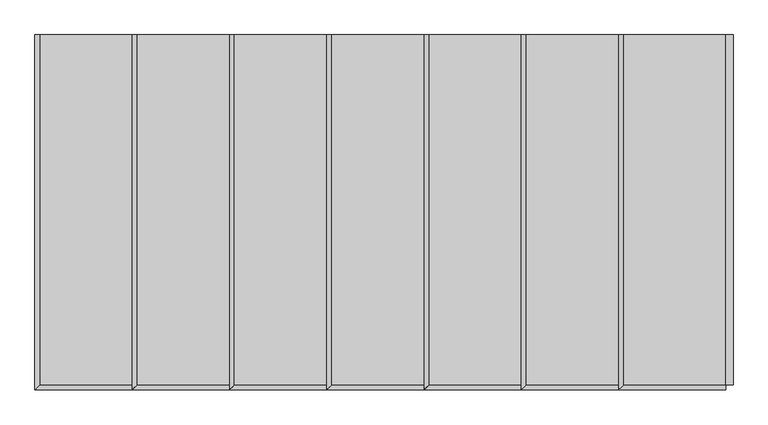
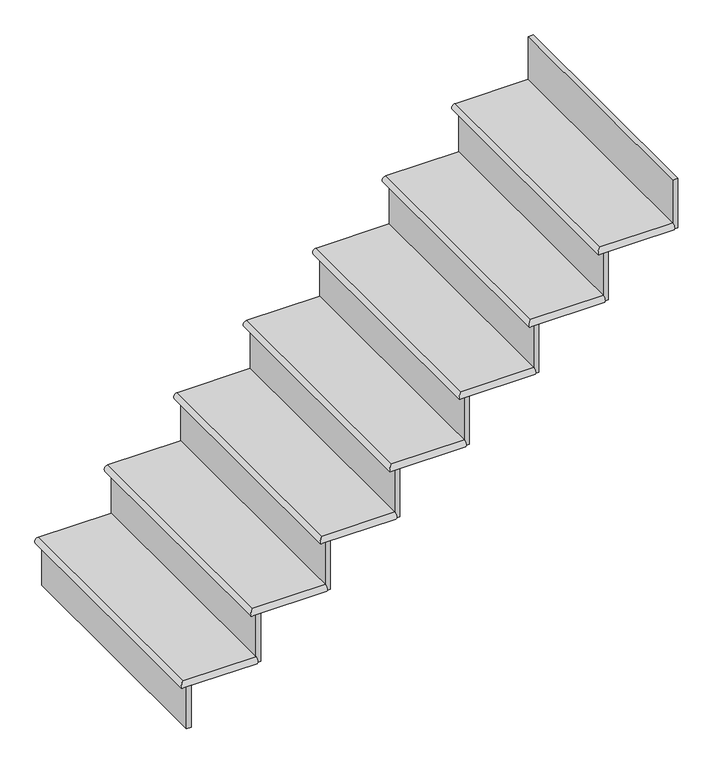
"""IFC4 building model written with IfcOpenShell, lengths in millimetres: stair flight geometry."""

import ifcopenshell
import ifcopenshell.guid

model = None  # the IFC model being written
_history = None  # IfcOwnerHistory: only IFC2X3 demands one
_inside = {}  # id of a spatial element -> (the spatial element, [elements in it])
_under = {}  # id of a project, library or spatial element -> (it, [spatial elements below it])
_declared = {}  # id of a project -> (the project, [libraries it declares])
_typed = {}  # id of a type object -> (the type object, [elements of that type])
_made_of = {}  # id of a material, layer set ... -> (it, [elements and type objects made of it])


def new_model(schema):
    """Start an empty IFC model of exactly this schema.

    Asked for "IFC4X3", IfcOpenShell would pick the latest addendum, in which some entities
    have other attributes; the version numbers below select the first issue.
    IFC2X3 requires an IfcOwnerHistory on every rooted entity: one is made here for all.
    """
    global model, _history
    if schema == "IFC4X3":
        model = ifcopenshell.file(schema_version=(4, 3, 0, 0))
    else:
        model = ifcopenshell.file(schema=schema)
    _inside.clear()
    _under.clear()
    _declared.clear()
    _typed.clear()
    _made_of.clear()
    _history = None
    if model.schema == "IFC2X3":
        org = make("IfcOrganization", Name="unknown")
        user = make(
            "IfcPersonAndOrganization",
            ThePerson=make("IfcPerson", FamilyName="unknown"),
            TheOrganization=org,
        )
        app = make(
            "IfcApplication",
            ApplicationDeveloper=org,
            Version="unknown",
            ApplicationFullName="unknown",
            ApplicationIdentifier="unknown",
        )
        _history = make(
            "IfcOwnerHistory",
            OwningUser=user,
            OwningApplication=app,
            ChangeAction="ADDED",
            CreationDate=0,
        )
    return model


def make(cls, **values):
    """One entity of the class cls with the attributes given. An attribute that is None is left unset."""
    return model.create_entity(
        cls, **{name: value for name, value in values.items() if value is not None}
    )


def rooted(cls, **values):
    """An entity with a GlobalId (a new one), such as an element, a storey or a relation."""
    return make(cls, GlobalId=ifcopenshell.guid.new(), OwnerHistory=_history, **values)


def si_unit(unit_type, name, prefix=None):
    """IfcSIUnit, for example si_unit("LENGTHUNIT", "METRE", prefix="MILLI")."""
    return make("IfcSIUnit", UnitType=unit_type, Prefix=prefix, Name=name)


def assignment(units):
    """IfcUnitAssignment: the units of a project."""
    return None if units is None else make("IfcUnitAssignment", Units=units)


def point(xyz):
    """IfcCartesianPoint."""
    return None if xyz is None else make("IfcCartesianPoint", Coordinates=xyz)


def direction(xyz):
    """IfcDirection."""
    return None if xyz is None else make("IfcDirection", DirectionRatios=xyz)


def frame(location, z_axis=None, x_axis=None):
    """IfcAxis2Placement3D, a coordinate frame: its origin and axes. An axis left out is left unset."""
    return make(
        "IfcAxis2Placement3D",
        Location=point(location),
        Axis=direction(z_axis),
        RefDirection=direction(x_axis),
    )


def origin():
    """The frame at (0, 0, 0) with its axes left unset."""
    return frame((0.0, 0.0, 0.0))


def place(relative_to, where):
    """IfcLocalPlacement: puts the frame where relative to a parent placement (None: the world)."""
    return make(
        "IfcLocalPlacement", PlacementRelTo=relative_to, RelativePlacement=where
    )


def context(
    kind, dimensions, precision=None, world=None, true_north=None, identifier=None
):
    """IfcGeometricRepresentationContext, for example the 3D "Model" context."""
    return make(
        "IfcGeometricRepresentationContext",
        ContextIdentifier=identifier,
        ContextType=kind,
        CoordinateSpaceDimension=dimensions,
        Precision=precision,
        WorldCoordinateSystem=world,
        TrueNorth=true_north,
    )


def project(units=None, contexts=None):
    """IfcProject with its units and contexts."""
    return rooted(
        "IfcProject",
        Name="project",
        RepresentationContexts=contexts,
        UnitsInContext=assignment(units),
    )


def spatial(cls, under=None, at=None, **own):
    """A site, building, storey or space (cls), placed at a placement, below another one or the project."""
    s = rooted(cls, ObjectPlacement=at, **own)
    if under is not None:
        _under.setdefault(under.id(), (under, []))[1].append(s)
    return s


def circle_curve(where, radius):
    """IfcCircle in the frame where."""
    return make("IfcCircle", Position=where, Radius=radius)


def ellipse_curve(where, semi_axis1, semi_axis2):
    """IfcEllipse in the frame where."""
    return make(
        "IfcEllipse", Position=where, SemiAxis1=semi_axis1, SemiAxis2=semi_axis2
    )


def faces_of(points, faces, orient=None, outer=None):
    """IfcFace entities. A face is a list of loops; a loop is a list of indices into points, from 0.

    orient and outer hold one flag for each loop. By default every Orientation is true, the
    first loop of a face is its IfcFaceOuterBound and the others are IfcFaceBound.
    """
    made = []
    for i, loops in enumerate(faces):
        bounds = []
        for j, loop in enumerate(loops):
            is_outer = j == 0 if outer is None else outer[i][j]
            bounds.append(
                make(
                    "IfcFaceOuterBound" if is_outer else "IfcFaceBound",
                    Bound=make("IfcPolyLoop", Polygon=[points[k] for k in loop]),
                    Orientation=True if orient is None else orient[i][j],
                )
            )
        made.append(make("IfcFace", Bounds=bounds))
    return made


def faceted_brep(points, faces, orient=None, outer=None, voids=None):
    """IfcFacetedBrep: a solid bounded by flat faces; with voids (closed shells), ...WithVoids."""
    shared = [point(p) for p in points]
    hull = make("IfcClosedShell", CfsFaces=faces_of(shared, faces, orient, outer))
    if voids is None:
        return make("IfcFacetedBrep", Outer=hull)
    return make(
        "IfcFacetedBrepWithVoids",
        Outer=hull,
        Voids=[
            make(cls, CfsFaces=faces_of(shared, fs, o, b)) for cls, fs, o, b in voids
        ],
    )


def shape(context_of_items, identifier, shape_type, items):
    """IfcShapeRepresentation: the items that make up one representation, for example the "Body"."""
    return make(
        "IfcShapeRepresentation",
        ContextOfItems=context_of_items,
        RepresentationIdentifier=identifier,
        RepresentationType=shape_type,
        Items=items,
    )


def source(mapping_origin, context_of_items, identifier, shape_type, items):
    """IfcRepresentationMap: a shape defined once, which mapped items show again and again."""
    return make(
        "IfcRepresentationMap",
        MappingOrigin=mapping_origin,
        MappedRepresentation=shape(context_of_items, identifier, shape_type, items),
    )


def transform(
    local_origin,
    x_axis=None,
    y_axis=None,
    z_axis=None,
    scale=None,
    scale2=None,
    scale3=None,
    uniform=True,
):
    """IfcCartesianTransformationOperator3D, or its non-uniform kind. x_axis, y_axis, z_axis: its Axis1, 2, 3."""
    if uniform:
        return make(
            "IfcCartesianTransformationOperator3D",
            Axis1=direction(x_axis),
            Axis2=direction(y_axis),
            LocalOrigin=point(local_origin),
            Scale=scale,
            Axis3=direction(z_axis),
        )
    return make(
        "IfcCartesianTransformationOperator3DnonUniform",
        Axis1=direction(x_axis),
        Axis2=direction(y_axis),
        LocalOrigin=point(local_origin),
        Scale=scale,
        Axis3=direction(z_axis),
        Scale2=scale2,
        Scale3=scale3,
    )


def mapped(mapping_source, mapping_target):
    """IfcMappedItem: shows the shape of a source again, moved by a transform."""
    return make(
        "IfcMappedItem", MappingSource=mapping_source, MappingTarget=mapping_target
    )


def made_of(thing, what):
    """Note that an element or type object is made of a material, layer set ...; save() writes the relation."""
    if what is not None:
        _made_of.setdefault(what.id(), (what, []))[1].append(thing)
    return thing


def element(
    cls,
    number,
    at=None,
    inside=None,
    cuts=None,
    type_object=None,
    material=None,
    context=None,
    identifier="Body",
    shape_type=None,
    held_by="IfcProductDefinitionShape",
    body=None,
    shapes=None,
    **own,
):
    """One element of the class cls, such as IfcWall. Its Tag is "e" and its number.

    at: its placement. inside: the storey or other place that contains it. cuts: it is an
    opening in that element (IfcRelVoidsElement). A single representation is given by context,
    identifier, shape_type and body (its items); several are given by shapes. held_by: the class
    of the entity that holds the representations. save() writes the other relations.
    """
    e = rooted(cls, Tag="e%d" % number, ObjectPlacement=at, **own)
    if body is not None:
        shapes = [shape(context, identifier, shape_type, body)]
    if shapes is not None:
        e.Representation = make(held_by, Representations=shapes)
    if inside is not None:
        _inside.setdefault(inside.id(), (inside, []))[1].append(e)
    if cuts is not None:
        rooted(
            "IfcRelVoidsElement", RelatingBuildingElement=cuts, RelatedOpeningElement=e
        )
    if type_object is not None:
        _typed.setdefault(type_object.id(), (type_object, []))[1].append(e)
    return made_of(e, material)


def aggregate(whole, parts):
    """IfcRelAggregates: a whole, such as a stair, and the parts it consists of."""
    return rooted("IfcRelAggregates", RelatingObject=whole, RelatedObjects=parts)


def save(model, path):
    """Write the relations noted so far, then the file.

    IfcRelAggregates (storeys below a building ...), IfcRelContainedInSpatialStructure (elements
    in a storey), IfcRelDefinesByType, IfcRelAssociatesMaterial and IfcRelDeclares: one each for
    every whole, place, type object, material and project.
    """
    for whole, parts in _under.values():
        aggregate(whole, parts)
    for where, things in _inside.values():
        rooted(
            "IfcRelContainedInSpatialStructure",
            RelatedElements=things,
            RelatingStructure=where,
        )
    for kind, things in _typed.values():
        rooted("IfcRelDefinesByType", RelatedObjects=things, RelatingType=kind)
    for what, things in _made_of.values():
        rooted("IfcRelAssociatesMaterial", RelatedObjects=things, RelatingMaterial=what)
    for by, libraries in _declared.values():
        rooted("IfcRelDeclares", RelatingContext=by, RelatedDefinitions=libraries)
    model.write(path)


def plane_surface(at):
    """IfcPlane: the flat surface through the origin of the frame at, square to its z axis."""
    return make("IfcPlane", Position=at)


def cylinder_surface(at, radius):
    """IfcCylindricalSurface: all points at the distance radius from the z axis of the frame at."""
    return make("IfcCylindricalSurface", Position=at, Radius=radius)


def advanced_brep(points, edges, surfaces, faces):
    """IfcAdvancedBrep: a solid bounded by faces that lie on surfaces and meet in shared edges.

    An edge is (start, end): straight between two places in points (the first is 0);
    or (start, end, curve); or (start, end, curve, False) where it runs against its curve.
    A face is (place in surfaces, loops), or (place, loops, False) where it looks against
    its surface's normal. A loop lists edges by number (the first is 1), with a minus sign
    where the edge is run from its end to its start. The first loop is the outer one.
    """
    corners = [point(p) for p in points]
    vertices = [make("IfcVertexPoint", VertexGeometry=c) for c in corners]
    made = []
    for start, end, *more in edges:
        made.append(
            make(
                "IfcEdgeCurve",
                EdgeStart=vertices[start],
                EdgeEnd=vertices[end],
                EdgeGeometry=more[0] if more else make("IfcPolyline", Points=[corners[start], corners[end]]),
                SameSense=more[1] if len(more) > 1 else True,
            )
        )
    hull = []
    for where, loops, *sense in faces:
        bounds = []
        for j, loop in enumerate(loops):
            ring = [make("IfcOrientedEdge", EdgeElement=made[abs(k) - 1], Orientation=k > 0) for k in loop]
            bounds.append(
                make(
                    "IfcFaceOuterBound" if j == 0 else "IfcFaceBound",
                    Bound=make("IfcEdgeLoop", EdgeList=ring),
                    Orientation=True,
                )
            )
        hull.append(make("IfcAdvancedFace", Bounds=bounds, FaceSurface=surfaces[where], SameSense=sense[0] if sense else True))
    return make("IfcAdvancedBrep", Outer=make("IfcClosedShell", CfsFaces=hull))


def stair_flight_34b82d96(model_context):
    return source(origin(), model_context, "Body", "SolidModel", [
        advanced_brep(
        [(-17769.3481446, 896.1568972, 165.1), (-17769.3481446, 896.1568972, 190.5), (-17769.3481446, 1810.5568972, 190.5), (-17769.3481446, 1810.5568972, 165.1), (-17502.6481446, 1810.5568972, 190.5), (-17502.6481446, 896.1568972, 190.5), (-17502.6481446, 1810.5568972, 165.1), (-17502.6481446, 896.1568972, 165.1)],
        [
            (0, 1, ellipse_curve(frame((-17769.3481446, 896.1568972, 177.8), z_axis=(-0.7071067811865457, 0.7071067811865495, 0.0), x_axis=(-0.7071067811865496, -0.7071067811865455, 0.0)), 17.9605122, 12.7)),
            (1, 2),
            (2, 3, circle_curve(frame((-17769.3481446, 1810.5568972, 177.8), z_axis=(0.0, -1.0, 0.0), x_axis=(1.0, 0.0, 0.0)), 12.7)),
            (3, 0),
            (4, 2),
            (1, 5),
            (5, 4),
            (3, 6),
            (6, 7),
            (7, 0),
            (4, 6),
            (5, 7, circle_curve(frame((-17502.6481446, 896.1568972, 177.8), z_axis=(1.0, 0.0, 0.0), x_axis=(0.0, 1.0, 0.0)), 12.7)),
        ],
        [
            cylinder_surface(frame((-17769.3481446, 896.1568972, 177.8), z_axis=(0.0, -1.0, 0.0), x_axis=(1.0, 0.0, 0.0)), 12.7),
            plane_surface(frame((-17782.0481446, 1810.5568972, 190.5), z_axis=(0.0, 0.0, 1.0), x_axis=(-1.0, 0.0, 0.0))),
            plane_surface(frame((-17782.0481446, 1810.5568972, 165.1), z_axis=(0.0, 0.0, -1.0), x_axis=(1.0, 0.0, 0.0))),
            plane_surface(frame((-17502.6481446, 1810.5568972, 190.5), z_axis=(0.0, 1.0, 0.0), x_axis=(0.0, 0.0, -1.0))),
            plane_surface(frame((-17502.6481446, 896.1568972, 190.5), z_axis=(1.0, 0.0, 0.0), x_axis=(0.0, 0.0, -1.0))),
            cylinder_surface(frame((-17502.6481446, 896.1568972, 177.8), z_axis=(1.0, 0.0, 0.0), x_axis=(0.0, 1.0, 0.0)), 12.7),
        ],
        [
            (0, [[1, 2, 3, 4]]),
            (1, [[5, -2, 6, 7]]),
            (2, [[8, 9, 10, -4]]),
            (3, [[-5, 11, -8, -3]]),
            (4, [[-7, 12, -9, -11]]),
            (5, [[-12, -6, -1, -10]]),
        ],
    ),
        faceted_brep([(-17756.6481446, 896.1568972, 165.1), (-17756.6481446, 896.1568972, 0.0), (-17737.5981446, 896.1568972, 0.0), (-17737.5981446, 896.1568972, 165.1), (-17756.6481446, 1810.5568972, 165.1), (-17737.5981446, 1810.5568972, 165.1), (-17737.5981446, 1810.5568972, 0.0), (-17756.6481446, 1810.5568972, 0.0)], [[[0, 1, 2, 3]], [[4, 5, 6, 7]], [[1, 0, 4, 7]], [[2, 1, 7, 6]], [[3, 2, 6, 5]], [[0, 3, 5, 4]]]),
        faceted_brep([(-17502.6481446, 896.1568972, 355.6), (-17502.6481446, 896.1568972, 165.1), (-17483.5981446, 896.1568972, 165.1), (-17483.5981446, 896.1568972, 355.6), (-17502.6481446, 1810.5568972, 355.6), (-17483.5981446, 1810.5568972, 355.6), (-17483.5981446, 1810.5568972, 165.1), (-17502.6481446, 1810.5568972, 165.1)], [[[0, 1, 2, 3]], [[4, 5, 6, 7]], [[1, 0, 4, 7]], [[2, 1, 7, 6]], [[3, 2, 6, 5]], [[0, 3, 5, 4]]]),
        advanced_brep(
        [(-17248.6481446, 1810.5568972, 381.0), (-17515.3481446, 1810.5568972, 381.0), (-17515.3481446, 896.1568972, 381.0), (-17248.6481446, 896.1568972, 381.0), (-17515.3481446, 1810.5568972, 355.6), (-17248.6481446, 1810.5568972, 355.6), (-17248.6481446, 896.1568972, 355.6), (-17515.3481446, 896.1568972, 355.6)],
        [
            (0, 1),
            (1, 2),
            (2, 3),
            (3, 0),
            (4, 5),
            (5, 6),
            (6, 7),
            (7, 4),
            (0, 5),
            (4, 1, circle_curve(frame((-17515.3481446, 1810.5568972, 368.3), z_axis=(0.0, 1.0, 0.0), x_axis=(1.0, 0.0, 0.0)), 12.7)),
            (3, 6, circle_curve(frame((-17248.6481446, 896.1568972, 368.3), z_axis=(1.0, 0.0, 0.0), x_axis=(0.0, 1.0, 0.0)), 12.7)),
            (7, 2, ellipse_curve(frame((-17515.3481446, 896.1568972, 368.3), z_axis=(-0.7071067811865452, 0.7071067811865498, 0.0), x_axis=(-0.7071067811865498, -0.7071067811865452, 0.0)), 17.9605122, 12.7)),
        ],
        [
            plane_surface(frame((-17782.0481446, 1810.5568972, 381.0), z_axis=(0.0, 0.0, 1.0), x_axis=(-1.0, 0.0, 0.0))),
            plane_surface(frame((-17782.0481446, 1810.5568972, 355.6), z_axis=(0.0, 0.0, -1.0), x_axis=(1.0, 0.0, 0.0))),
            plane_surface(frame((-17248.6481446, 1810.5568972, 381.0), z_axis=(0.0, 1.0, 0.0), x_axis=(0.0, 0.0, -1.0))),
            plane_surface(frame((-17248.6481446, 896.1568972, 381.0), z_axis=(1.0, 0.0, 0.0), x_axis=(0.0, 0.0, -1.0))),
            cylinder_surface(frame((-17515.3481446, 896.1568972, 368.3), z_axis=(0.0, -1.0, 0.0), x_axis=(1.0, 0.0, 0.0)), 12.7),
            cylinder_surface(frame((-17248.6481446, 896.1568972, 368.3), z_axis=(1.0, 0.0, 0.0), x_axis=(0.0, 1.0, 0.0)), 12.7),
        ],
        [
            (0, [[1, 2, 3, 4]]),
            (1, [[5, 6, 7, 8]]),
            (2, [[-1, 9, -5, 10]]),
            (3, [[-4, 11, -6, -9]]),
            (4, [[12, -2, -10, -8]]),
            (5, [[-11, -3, -12, -7]]),
        ],
    ),
        faceted_brep([(-17248.6481446, 896.1568972, 546.1), (-17248.6481446, 896.1568972, 355.6), (-17229.5981446, 896.1568972, 355.6), (-17229.5981446, 896.1568972, 546.1), (-17248.6481446, 1810.5568972, 546.1), (-17229.5981446, 1810.5568972, 546.1), (-17229.5981446, 1810.5568972, 355.6), (-17248.6481446, 1810.5568972, 355.6)], [[[0, 1, 2, 3]], [[4, 5, 6, 7]], [[1, 0, 4, 7]], [[2, 1, 7, 6]], [[3, 2, 6, 5]], [[0, 3, 5, 4]]]),
        advanced_brep(
        [(-16994.6481446, 1810.5568972, 571.5), (-17261.3481446, 1810.5568972, 571.5), (-17261.3481446, 896.1568972, 571.5), (-16994.6481446, 896.1568972, 571.5), (-17261.3481446, 1810.5568972, 546.1), (-16994.6481446, 1810.5568972, 546.1), (-16994.6481446, 896.1568972, 546.1), (-17261.3481446, 896.1568972, 546.1)],
        [
            (0, 1),
            (1, 2),
            (2, 3),
            (3, 0),
            (4, 5),
            (5, 6),
            (6, 7),
            (7, 4),
            (0, 5),
            (4, 1, circle_curve(frame((-17261.3481446, 1810.5568972, 558.8), z_axis=(0.0, 1.0, 0.0), x_axis=(1.0, 0.0, 0.0)), 12.7)),
            (3, 6, circle_curve(frame((-16994.6481446, 896.1568972, 558.8), z_axis=(1.0, 0.0, 0.0), x_axis=(0.0, 1.0, 0.0)), 12.7)),
            (7, 2, ellipse_curve(frame((-17261.3481446, 896.1568972, 558.8), z_axis=(-0.7071067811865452, 0.7071067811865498, 0.0), x_axis=(-0.7071067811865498, -0.7071067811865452, 0.0)), 17.9605122, 12.7)),
        ],
        [
            plane_surface(frame((-17528.0481446, 1810.5568972, 571.5), z_axis=(0.0, 0.0, 1.0), x_axis=(-1.0, 0.0, 0.0))),
            plane_surface(frame((-17528.0481446, 1810.5568972, 546.1), z_axis=(0.0, 0.0, -1.0), x_axis=(1.0, 0.0, 0.0))),
            plane_surface(frame((-16994.6481446, 1810.5568972, 571.5), z_axis=(0.0, 1.0, 0.0), x_axis=(0.0, 0.0, -1.0))),
            plane_surface(frame((-16994.6481446, 896.1568972, 571.5), z_axis=(1.0, 0.0, 0.0), x_axis=(0.0, 0.0, -1.0))),
            cylinder_surface(frame((-17261.3481446, 896.1568972, 558.8), z_axis=(0.0, -1.0, 0.0), x_axis=(1.0, 0.0, 0.0)), 12.7),
            cylinder_surface(frame((-16994.6481446, 896.1568972, 558.8), z_axis=(1.0, 0.0, 0.0), x_axis=(0.0, 1.0, 0.0)), 12.7),
        ],
        [
            (0, [[1, 2, 3, 4]]),
            (1, [[5, 6, 7, 8]]),
            (2, [[-1, 9, -5, 10]]),
            (3, [[-4, 11, -6, -9]]),
            (4, [[12, -2, -10, -8]]),
            (5, [[-11, -3, -12, -7]]),
        ],
    ),
        faceted_brep([(-16994.6481446, 896.1568972, 736.6), (-16994.6481446, 896.1568972, 546.1), (-16975.5981446, 896.1568972, 546.1), (-16975.5981446, 896.1568972, 736.6), (-16994.6481446, 1810.5568972, 736.6), (-16975.5981446, 1810.5568972, 736.6), (-16975.5981446, 1810.5568972, 546.1), (-16994.6481446, 1810.5568972, 546.1)], [[[0, 1, 2, 3]], [[4, 5, 6, 7]], [[1, 0, 4, 7]], [[2, 1, 7, 6]], [[3, 2, 6, 5]], [[0, 3, 5, 4]]]),
        advanced_brep(
        [(-16740.6481446, 1810.5568972, 762.0), (-17007.3481446, 1810.5568972, 762.0), (-17007.3481446, 896.1568972, 762.0), (-16740.6481446, 896.1568972, 762.0), (-17007.3481446, 1810.5568972, 736.6), (-16740.6481446, 1810.5568972, 736.6), (-16740.6481446, 896.1568972, 736.6), (-17007.3481446, 896.1568972, 736.6)],
        [
            (0, 1),
            (1, 2),
            (2, 3),
            (3, 0),
            (4, 5),
            (5, 6),
            (6, 7),
            (7, 4),
            (0, 5),
            (4, 1, circle_curve(frame((-17007.3481446, 1810.5568972, 749.3), z_axis=(0.0, 1.0, 0.0), x_axis=(1.0, 0.0, 0.0)), 12.7)),
            (3, 6, circle_curve(frame((-16740.6481446, 896.1568972, 749.3), z_axis=(1.0, 0.0, 0.0), x_axis=(0.0, 1.0, 0.0)), 12.7)),
            (7, 2, ellipse_curve(frame((-17007.3481446, 896.1568972, 749.3), z_axis=(-0.7071067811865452, 0.7071067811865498, 0.0), x_axis=(-0.7071067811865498, -0.7071067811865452, 0.0)), 17.9605122, 12.7)),
        ],
        [
            plane_surface(frame((-17274.0481446, 1810.5568972, 762.0), z_axis=(0.0, 0.0, 1.0), x_axis=(-1.0, 0.0, 0.0))),
            plane_surface(frame((-17274.0481446, 1810.5568972, 736.6), z_axis=(0.0, 0.0, -1.0), x_axis=(1.0, 0.0, 0.0))),
            plane_surface(frame((-16740.6481446, 1810.5568972, 762.0), z_axis=(0.0, 1.0, 0.0), x_axis=(0.0, 0.0, -1.0))),
            plane_surface(frame((-16740.6481446, 896.1568972, 762.0), z_axis=(1.0, 0.0, 0.0), x_axis=(0.0, 0.0, -1.0))),
            cylinder_surface(frame((-17007.3481446, 896.1568972, 749.3), z_axis=(0.0, -1.0, 0.0), x_axis=(1.0, 0.0, 0.0)), 12.7),
            cylinder_surface(frame((-16740.6481446, 896.1568972, 749.3), z_axis=(1.0, 0.0, 0.0), x_axis=(0.0, 1.0, 0.0)), 12.7),
        ],
        [
            (0, [[1, 2, 3, 4]]),
            (1, [[5, 6, 7, 8]]),
            (2, [[-1, 9, -5, 10]]),
            (3, [[-4, 11, -6, -9]]),
            (4, [[12, -2, -10, -8]]),
            (5, [[-11, -3, -12, -7]]),
        ],
    ),
        faceted_brep([(-16740.6481446, 896.1568972, 927.1), (-16740.6481446, 896.1568972, 736.6), (-16721.5981446, 896.1568972, 736.6), (-16721.5981446, 896.1568972, 927.1), (-16740.6481446, 1810.5568972, 927.1), (-16721.5981446, 1810.5568972, 927.1), (-16721.5981446, 1810.5568972, 736.6), (-16740.6481446, 1810.5568972, 736.6)], [[[0, 1, 2, 3]], [[4, 5, 6, 7]], [[1, 0, 4, 7]], [[2, 1, 7, 6]], [[3, 2, 6, 5]], [[0, 3, 5, 4]]]),
        advanced_brep(
        [(-16486.6481446, 1810.5568972, 952.5), (-16753.3481446, 1810.5568972, 952.5), (-16753.3481446, 896.1568972, 952.5), (-16486.6481446, 896.1568972, 952.5), (-16753.3481446, 1810.5568972, 927.1), (-16486.6481446, 1810.5568972, 927.1), (-16486.6481446, 896.1568972, 927.1), (-16753.3481446, 896.1568972, 927.1)],
        [
            (0, 1),
            (1, 2),
            (2, 3),
            (3, 0),
            (4, 5),
            (5, 6),
            (6, 7),
            (7, 4),
            (0, 5),
            (4, 1, circle_curve(frame((-16753.3481446, 1810.5568972, 939.8), z_axis=(0.0, 1.0, 0.0), x_axis=(1.0, 0.0, 0.0)), 12.7)),
            (3, 6, circle_curve(frame((-16486.6481446, 896.1568972, 939.8), z_axis=(1.0, 0.0, 0.0), x_axis=(0.0, 1.0, 0.0)), 12.7)),
            (7, 2, ellipse_curve(frame((-16753.3481446, 896.1568972, 939.8), z_axis=(-0.7071067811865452, 0.7071067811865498, 0.0), x_axis=(-0.7071067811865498, -0.7071067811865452, 0.0)), 17.9605122, 12.7)),
        ],
        [
            plane_surface(frame((-17020.0481446, 1810.5568972, 952.5), z_axis=(0.0, 0.0, 1.0), x_axis=(-1.0, 0.0, 0.0))),
            plane_surface(frame((-17020.0481446, 1810.5568972, 927.1), z_axis=(0.0, 0.0, -1.0), x_axis=(1.0, 0.0, 0.0))),
            plane_surface(frame((-16486.6481446, 1810.5568972, 952.5), z_axis=(0.0, 1.0, 0.0), x_axis=(0.0, 0.0, -1.0))),
            plane_surface(frame((-16486.6481446, 896.1568972, 952.5), z_axis=(1.0, 0.0, 0.0), x_axis=(0.0, 0.0, -1.0))),
            cylinder_surface(frame((-16753.3481446, 896.1568972, 939.8), z_axis=(0.0, -1.0, 0.0), x_axis=(1.0, 0.0, 0.0)), 12.7),
            cylinder_surface(frame((-16486.6481446, 896.1568972, 939.8), z_axis=(1.0, 0.0, 0.0), x_axis=(0.0, 1.0, 0.0)), 12.7),
        ],
        [
            (0, [[1, 2, 3, 4]]),
            (1, [[5, 6, 7, 8]]),
            (2, [[-1, 9, -5, 10]]),
            (3, [[-4, 11, -6, -9]]),
            (4, [[12, -2, -10, -8]]),
            (5, [[-11, -3, -12, -7]]),
        ],
    ),
        faceted_brep([(-16486.6481446, 896.1568972, 1117.6), (-16486.6481446, 896.1568972, 927.1), (-16467.5981446, 896.1568972, 927.1), (-16467.5981446, 896.1568972, 1117.6), (-16486.6481446, 1810.5568972, 1117.6), (-16467.5981446, 1810.5568972, 1117.6), (-16467.5981446, 1810.5568972, 927.1), (-16486.6481446, 1810.5568972, 927.1)], [[[0, 1, 2, 3]], [[4, 5, 6, 7]], [[1, 0, 4, 7]], [[2, 1, 7, 6]], [[3, 2, 6, 5]], [[0, 3, 5, 4]]]),
        advanced_brep(
        [(-16232.6481446, 1810.5568972, 1143.0), (-16499.3481446, 1810.5568972, 1143.0), (-16499.3481446, 896.1568972, 1143.0), (-16232.6481446, 896.1568972, 1143.0), (-16499.3481446, 1810.5568972, 1117.6), (-16232.6481446, 1810.5568972, 1117.6), (-16232.6481446, 896.1568972, 1117.6), (-16499.3481446, 896.1568972, 1117.6)],
        [
            (0, 1),
            (1, 2),
            (2, 3),
            (3, 0),
            (4, 5),
            (5, 6),
            (6, 7),
            (7, 4),
            (0, 5),
            (4, 1, circle_curve(frame((-16499.3481446, 1810.5568972, 1130.3), z_axis=(0.0, 1.0, 0.0), x_axis=(1.0, 0.0, 0.0)), 12.7)),
            (3, 6, circle_curve(frame((-16232.6481446, 896.1568972, 1130.3), z_axis=(1.0, 0.0, 0.0), x_axis=(0.0, 1.0, 0.0)), 12.7)),
            (7, 2, ellipse_curve(frame((-16499.3481446, 896.1568972, 1130.3), z_axis=(-0.7071067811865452, 0.7071067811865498, 0.0), x_axis=(-0.7071067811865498, -0.7071067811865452, 0.0)), 17.9605122, 12.7)),
        ],
        [
            plane_surface(frame((-16766.0481446, 1810.5568972, 1143.0), z_axis=(0.0, 0.0, 1.0), x_axis=(-1.0, 0.0, 0.0))),
            plane_surface(frame((-16766.0481446, 1810.5568972, 1117.6), z_axis=(0.0, 0.0, -1.0), x_axis=(1.0, 0.0, 0.0))),
            plane_surface(frame((-16232.6481446, 1810.5568972, 1143.0), z_axis=(0.0, 1.0, 0.0), x_axis=(0.0, 0.0, -1.0))),
            plane_surface(frame((-16232.6481446, 896.1568972, 1143.0), z_axis=(1.0, 0.0, 0.0), x_axis=(0.0, 0.0, -1.0))),
            cylinder_surface(frame((-16499.3481446, 896.1568972, 1130.3), z_axis=(0.0, -1.0, 0.0), x_axis=(1.0, 0.0, 0.0)), 12.7),
            cylinder_surface(frame((-16232.6481446, 896.1568972, 1130.3), z_axis=(1.0, 0.0, 0.0), x_axis=(0.0, 1.0, 0.0)), 12.7),
        ],
        [
            (0, [[1, 2, 3, 4]]),
            (1, [[5, 6, 7, 8]]),
            (2, [[-1, 9, -5, 10]]),
            (3, [[-4, 11, -6, -9]]),
            (4, [[12, -2, -10, -8]]),
            (5, [[-11, -3, -12, -7]]),
        ],
    ),
        faceted_brep([(-15978.6481446, 896.1568972, 1498.6), (-15978.6481446, 896.1568972, 1308.1), (-15959.5981446, 896.1568972, 1308.1), (-15959.5981446, 896.1568972, 1498.6), (-15978.6481446, 1810.5568972, 1498.6), (-15959.5981446, 1810.5568972, 1498.6), (-15959.5981446, 1810.5568972, 1308.1), (-15978.6481446, 1810.5568972, 1308.1)], [[[0, 1, 2, 3]], [[4, 5, 6, 7]], [[1, 0, 4, 7]], [[2, 1, 7, 6]], [[3, 2, 6, 5]], [[0, 3, 5, 4]]]),
        faceted_brep([(-16232.6481446, 896.1568972, 1308.1), (-16232.6481446, 896.1568972, 1117.6), (-16213.5981446, 896.1568972, 1117.6), (-16213.5981446, 896.1568972, 1308.1), (-16232.6481446, 1810.5568972, 1308.1), (-16213.5981446, 1810.5568972, 1308.1), (-16213.5981446, 1810.5568972, 1117.6), (-16232.6481446, 1810.5568972, 1117.6)], [[[0, 1, 2, 3]], [[4, 5, 6, 7]], [[1, 0, 4, 7]], [[2, 1, 7, 6]], [[3, 2, 6, 5]], [[0, 3, 5, 4]]]),
        advanced_brep(
        [(-15978.6481446, 1810.5568972, 1333.5), (-16245.3481446, 1810.5568972, 1333.5), (-16245.3481446, 896.1568972, 1333.5), (-16004.0481446, 896.1568972, 1333.5), (-15978.6481446, 896.1568972, 1333.5), (-16245.3481446, 1810.5568972, 1308.1), (-15978.6481446, 1810.5568972, 1308.1), (-15978.6481446, 896.1568972, 1308.1), (-16004.0481446, 896.1568972, 1308.1), (-16245.3481446, 896.1568972, 1308.1)],
        [
            (0, 1),
            (1, 2),
            (2, 3),
            (3, 4),
            (4, 0),
            (5, 6),
            (6, 7),
            (7, 8),
            (8, 9),
            (9, 5),
            (0, 6),
            (5, 1, circle_curve(frame((-16245.3481446, 1810.5568972, 1320.8), z_axis=(0.0, 1.0, 0.0), x_axis=(1.0, 0.0, 0.0)), 12.7)),
            (4, 7, circle_curve(frame((-15978.6481446, 896.1568972, 1320.8), z_axis=(1.0, 0.0, 0.0), x_axis=(0.0, 1.0, 0.0)), 12.7)),
            (9, 2, ellipse_curve(frame((-16245.3481446, 896.1568972, 1320.8), z_axis=(-0.7071067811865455, 0.7071067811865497, 0.0), x_axis=(-0.7071067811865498, -0.7071067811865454, 0.0)), 17.9605122, 12.7)),
        ],
        [
            plane_surface(frame((-17782.0481446, 1810.5568972, 1333.5), z_axis=(0.0, 0.0, 1.0), x_axis=(-1.0, 0.0, 0.0))),
            plane_surface(frame((-17782.0481446, 1810.5568972, 1308.1), z_axis=(0.0, 0.0, -1.0), x_axis=(1.0, 0.0, 0.0))),
            plane_surface(frame((-15978.6481446, 1810.5568972, 1333.5), z_axis=(0.0, 1.0, 0.0), x_axis=(0.0, 0.0, -1.0))),
            plane_surface(frame((-15978.6481446, 896.1568972, 1333.5), z_axis=(1.0, 0.0, 0.0), x_axis=(0.0, 0.0, -1.0))),
            cylinder_surface(frame((-16245.3481446, 896.1568972, 1320.8), z_axis=(0.0, -1.0, 0.0), x_axis=(1.0, 0.0, 0.0)), 12.7),
            cylinder_surface(frame((-15978.6481446, 896.1568972, 1320.8), z_axis=(1.0, 0.0, 0.0), x_axis=(0.0, 1.0, 0.0)), 12.7),
        ],
        [
            (0, [[1, 2, 3, 4, 5]]),
            (1, [[6, 7, 8, 9, 10]]),
            (2, [[-1, 11, -6, 12]]),
            (3, [[-5, 13, -7, -11]]),
            (4, [[14, -2, -12, -10]]),
            (5, [[-13, -4, -3, -14, -9, -8]]),
        ],
    ),
    ])


if __name__ == "__main__":
    model = new_model("IFC4")
    model_context = context("Model", 3, world=origin())
    ifc_project = project(units=[si_unit("LENGTHUNIT", "METRE", prefix="MILLI")], contexts=[model_context])
    site = spatial("IfcSite", under=ifc_project)
    building = spatial("IfcBuilding", under=site)
    placement = place(None, origin())
    stair_flight_shape = stair_flight_34b82d96(model_context)
    element("IfcStairFlight", 1, ObjectType="Unassigned Steps with 1\" Tread 1\" Nosing 3/4\" Riser (2)", at=placement, inside=building, context=model_context, shape_type="MappedRepresentation", body=[
        mapped(stair_flight_shape, transform((0.0, 0.0, 0.0), x_axis=(1.0, 0.0, 0.0), y_axis=(0.0, 1.0, 0.0), z_axis=(0.0, 0.0, 1.0))),
    ])
    save(model, "model.ifc")
